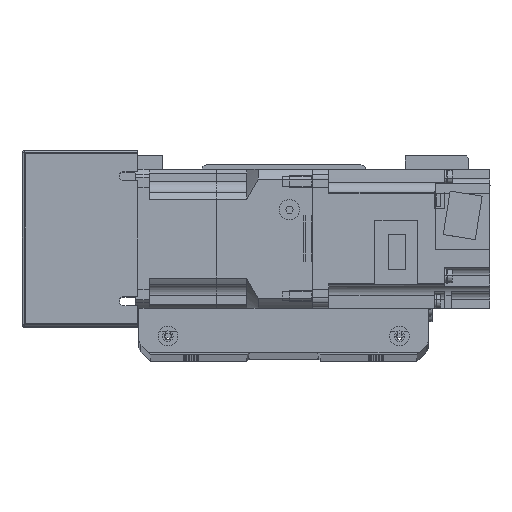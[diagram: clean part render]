
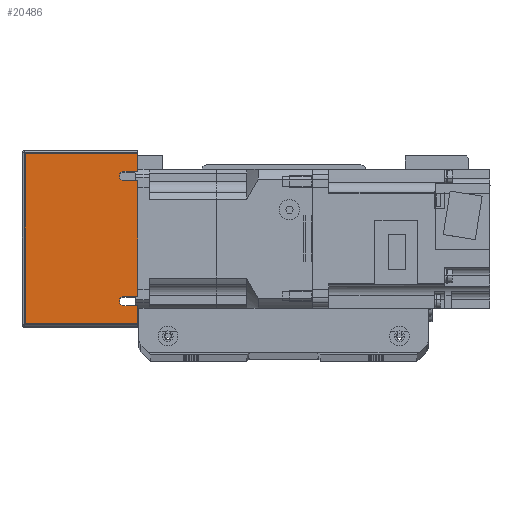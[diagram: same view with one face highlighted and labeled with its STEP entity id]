
A CAD part, top view. The second image highlights one B-rep face of the part: STEP entity #20486.
In plain terms, the highlighted planar face has unit normal (0, 0, 1) as drawn and (-1, 0, 0) by its records, which use the part's own axes.
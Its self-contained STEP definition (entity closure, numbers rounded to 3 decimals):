
#706=PLANE('',#22724);
#2036=LINE('',#34726,#3660);
#2045=LINE('',#34745,#3669);
#2052=LINE('',#34762,#3676);
#2060=LINE('',#34780,#3684);
#2073=LINE('',#34819,#3697);
#2078=LINE('',#34831,#3702);
#2082=LINE('',#34843,#3706);
#2085=LINE('',#34853,#3709);
#2086=LINE('',#34855,#3710);
#2087=LINE('',#34856,#3711);
#3660=VECTOR('',#28165,10.);
#3669=VECTOR('',#28178,10.);
#3676=VECTOR('',#28189,10.);
#3684=VECTOR('',#28201,10.);
#3697=VECTOR('',#28244,10.);
#3702=VECTOR('',#28255,10.);
#3706=VECTOR('',#28265,10.);
#3709=VECTOR('',#28276,10.);
#3710=VECTOR('',#28277,10.);
#3711=VECTOR('',#28278,10.);
#6128=FACE_OUTER_BOUND('',#7808,.T.);
#7808=EDGE_LOOP('',(#18389,#18390,#18391,#18392,#18393,#18394,#18395,#18396,
#18397,#18398,#18399,#18400));
#8988=CIRCLE('',#22702,2.);
#8993=CIRCLE('',#22710,2.);
#10717=VERTEX_POINT('',#34723);
#10718=VERTEX_POINT('',#34725);
#10724=VERTEX_POINT('',#34739);
#10726=VERTEX_POINT('',#34743);
#10733=VERTEX_POINT('',#34759);
#10734=VERTEX_POINT('',#34761);
#10741=VERTEX_POINT('',#34777);
#10742=VERTEX_POINT('',#34779);
#10753=VERTEX_POINT('',#34817);
#10762=VERTEX_POINT('',#34842);
#10765=VERTEX_POINT('',#34852);
#10766=VERTEX_POINT('',#34854);
#13308=EDGE_CURVE('',#10718,#10717,#2036,.T.);
#13317=EDGE_CURVE('',#10724,#10726,#2045,.T.);
#13324=EDGE_CURVE('',#10734,#10733,#2052,.T.);
#13332=EDGE_CURVE('',#10742,#10741,#2060,.T.);
#13338=EDGE_CURVE('',#10726,#10718,#8988,.T.);
#13349=EDGE_CURVE('',#10741,#10734,#8993,.T.);
#13354=EDGE_CURVE('',#10753,#10733,#2073,.T.);
#13361=EDGE_CURVE('',#10742,#10717,#2078,.T.);
#13367=EDGE_CURVE('',#10724,#10762,#2082,.T.);
#13372=EDGE_CURVE('',#10765,#10753,#2085,.T.);
#13373=EDGE_CURVE('',#10766,#10765,#2086,.T.);
#13374=EDGE_CURVE('',#10762,#10766,#2087,.T.);
#18389=ORIENTED_EDGE('',*,*,#13308,.T.);
#18390=ORIENTED_EDGE('',*,*,#13361,.F.);
#18391=ORIENTED_EDGE('',*,*,#13332,.T.);
#18392=ORIENTED_EDGE('',*,*,#13349,.T.);
#18393=ORIENTED_EDGE('',*,*,#13324,.T.);
#18394=ORIENTED_EDGE('',*,*,#13354,.F.);
#18395=ORIENTED_EDGE('',*,*,#13372,.F.);
#18396=ORIENTED_EDGE('',*,*,#13373,.F.);
#18397=ORIENTED_EDGE('',*,*,#13374,.F.);
#18398=ORIENTED_EDGE('',*,*,#13367,.F.);
#18399=ORIENTED_EDGE('',*,*,#13317,.T.);
#18400=ORIENTED_EDGE('',*,*,#13338,.T.);
#20486=ADVANCED_FACE('',(#6128),#706,.T.);
#22702=AXIS2_PLACEMENT_3D('',#34792,#28211,#28212);
#22710=AXIS2_PLACEMENT_3D('',#34810,#28233,#28234);
#22724=AXIS2_PLACEMENT_3D('',#34851,#28274,#28275);
#28165=DIRECTION('',(0.,0.,1.));
#28178=DIRECTION('',(0.,0.,-1.));
#28189=DIRECTION('',(0.,0.,1.));
#28201=DIRECTION('',(0.,0.,-1.));
#28211=DIRECTION('center_axis',(1.,0.,0.));
#28212=DIRECTION('ref_axis',(0.,0.,1.));
#28233=DIRECTION('center_axis',(1.,0.,0.));
#28234=DIRECTION('ref_axis',(0.,0.,1.));
#28244=DIRECTION('',(0.,-1.,0.));
#28255=DIRECTION('',(0.,-1.,0.));
#28265=DIRECTION('',(0.,-1.,0.));
#28274=DIRECTION('center_axis',(-1.,0.,0.));
#28275=DIRECTION('ref_axis',(0.,-1.,0.));
#28276=DIRECTION('',(0.,0.,1.));
#28277=DIRECTION('',(0.,1.,0.));
#28278=DIRECTION('',(0.,0.,-1.));
#34723=CARTESIAN_POINT('',(-91.,-25.,25.));
#34725=CARTESIAN_POINT('',(-91.,-25.,19.));
#34726=CARTESIAN_POINT('',(-91.,-25.,9.5));
#34739=CARTESIAN_POINT('',(-91.,-29.,25.));
#34743=CARTESIAN_POINT('',(-91.,-29.,19.));
#34745=CARTESIAN_POINT('',(-91.,-29.,15.178));
#34759=CARTESIAN_POINT('',(-91.,29.,25.));
#34761=CARTESIAN_POINT('',(-91.,29.,19.));
#34762=CARTESIAN_POINT('',(-91.,29.,9.5));
#34777=CARTESIAN_POINT('',(-91.,25.,19.));
#34779=CARTESIAN_POINT('',(-91.,25.,25.));
#34780=CARTESIAN_POINT('',(-91.,25.,15.178));
#34792=CARTESIAN_POINT('Origin',(-91.,-27.,19.));
#34810=CARTESIAN_POINT('Origin',(-91.,27.,19.));
#34817=CARTESIAN_POINT('',(-91.,37.,25.));
#34819=CARTESIAN_POINT('',(-91.,-38.,25.));
#34831=CARTESIAN_POINT('',(-91.,-38.,25.));
#34842=CARTESIAN_POINT('',(-91.,-37.,25.));
#34843=CARTESIAN_POINT('',(-91.,-38.,25.));
#34851=CARTESIAN_POINT('Origin',(-91.,38.,0.));
#34852=CARTESIAN_POINT('',(-91.,37.,-24.));
#34853=CARTESIAN_POINT('',(-91.,37.,0.));
#34854=CARTESIAN_POINT('',(-91.,-37.,-24.));
#34855=CARTESIAN_POINT('',(-91.,19.,-24.));
#34856=CARTESIAN_POINT('',(-91.,-37.,0.));
